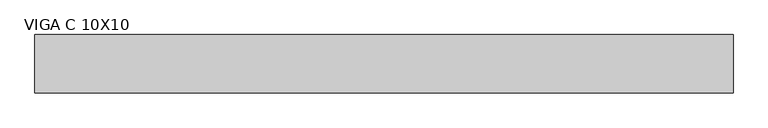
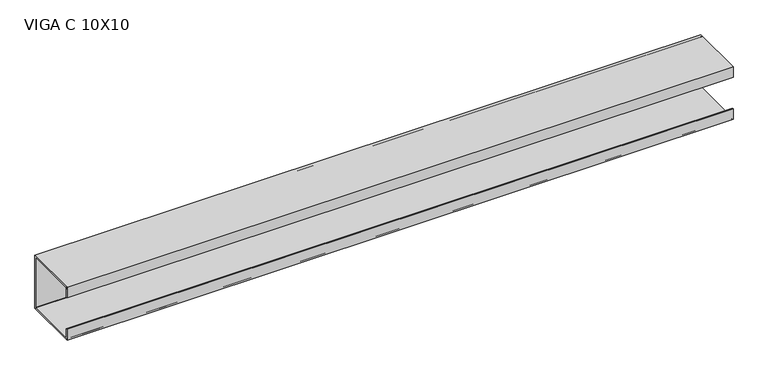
"""IFC4 building model written with IfcOpenShell, lengths in millimetres: beam geometry, VIGA PERFIL C AÇO : VIGA C 10X10."""

import ifcopenshell
import ifcopenshell.guid

model = None  # the IFC model being written
_history = None  # IfcOwnerHistory: only IFC2X3 demands one
_inside = {}  # id of a spatial element -> (the spatial element, [elements in it])
_under = {}  # id of a project, library or spatial element -> (it, [spatial elements below it])
_declared = {}  # id of a project -> (the project, [libraries it declares])
_typed = {}  # id of a type object -> (the type object, [elements of that type])
_made_of = {}  # id of a material, layer set ... -> (it, [elements and type objects made of it])


def new_model(schema):
    """Start an empty IFC model of exactly this schema.

    Asked for "IFC4X3", IfcOpenShell would pick the latest addendum, in which some entities
    have other attributes; the version numbers below select the first issue.
    IFC2X3 requires an IfcOwnerHistory on every rooted entity: one is made here for all.
    """
    global model, _history
    if schema == "IFC4X3":
        model = ifcopenshell.file(schema_version=(4, 3, 0, 0))
    else:
        model = ifcopenshell.file(schema=schema)
    _inside.clear()
    _under.clear()
    _declared.clear()
    _typed.clear()
    _made_of.clear()
    _history = None
    if model.schema == "IFC2X3":
        org = make("IfcOrganization", Name="unknown")
        user = make(
            "IfcPersonAndOrganization",
            ThePerson=make("IfcPerson", FamilyName="unknown"),
            TheOrganization=org,
        )
        app = make(
            "IfcApplication",
            ApplicationDeveloper=org,
            Version="unknown",
            ApplicationFullName="unknown",
            ApplicationIdentifier="unknown",
        )
        _history = make(
            "IfcOwnerHistory",
            OwningUser=user,
            OwningApplication=app,
            ChangeAction="ADDED",
            CreationDate=0,
        )
    return model


def make(cls, **values):
    """One entity of the class cls with the attributes given. An attribute that is None is left unset."""
    return model.create_entity(
        cls, **{name: value for name, value in values.items() if value is not None}
    )


def rooted(cls, **values):
    """An entity with a GlobalId (a new one), such as an element, a storey or a relation."""
    return make(cls, GlobalId=ifcopenshell.guid.new(), OwnerHistory=_history, **values)


def si_unit(unit_type, name, prefix=None):
    """IfcSIUnit, for example si_unit("LENGTHUNIT", "METRE", prefix="MILLI")."""
    return make("IfcSIUnit", UnitType=unit_type, Prefix=prefix, Name=name)


def assignment(units):
    """IfcUnitAssignment: the units of a project."""
    return None if units is None else make("IfcUnitAssignment", Units=units)


def point(xyz):
    """IfcCartesianPoint."""
    return None if xyz is None else make("IfcCartesianPoint", Coordinates=xyz)


def direction(xyz):
    """IfcDirection."""
    return None if xyz is None else make("IfcDirection", DirectionRatios=xyz)


def frame(location, z_axis=None, x_axis=None):
    """IfcAxis2Placement3D, a coordinate frame: its origin and axes. An axis left out is left unset."""
    return make(
        "IfcAxis2Placement3D",
        Location=point(location),
        Axis=direction(z_axis),
        RefDirection=direction(x_axis),
    )


def frame_2d(location, x_axis=None):
    """IfcAxis2Placement2D, a coordinate frame in the plane: its origin and x axis."""
    return make(
        "IfcAxis2Placement2D", Location=point(location), RefDirection=direction(x_axis)
    )


def origin():
    """The frame at (0, 0, 0) with its axes left unset."""
    return frame((0.0, 0.0, 0.0))


def place(relative_to, where):
    """IfcLocalPlacement: puts the frame where relative to a parent placement (None: the world)."""
    return make(
        "IfcLocalPlacement", PlacementRelTo=relative_to, RelativePlacement=where
    )


def context(
    kind, dimensions, precision=None, world=None, true_north=None, identifier=None
):
    """IfcGeometricRepresentationContext, for example the 3D "Model" context."""
    return make(
        "IfcGeometricRepresentationContext",
        ContextIdentifier=identifier,
        ContextType=kind,
        CoordinateSpaceDimension=dimensions,
        Precision=precision,
        WorldCoordinateSystem=world,
        TrueNorth=true_north,
    )


def project(units=None, contexts=None):
    """IfcProject with its units and contexts."""
    return rooted(
        "IfcProject",
        Name="project",
        RepresentationContexts=contexts,
        UnitsInContext=assignment(units),
    )


def spatial(cls, under=None, at=None, **own):
    """A site, building, storey or space (cls), placed at a placement, below another one or the project."""
    s = rooted(cls, ObjectPlacement=at, **own)
    if under is not None:
        _under.setdefault(under.id(), (under, []))[1].append(s)
    return s


def polyline(points):
    """IfcPolyline through the points."""
    return make("IfcPolyline", Points=[point(p) for p in points])


def circle_curve(where, radius):
    """IfcCircle in the frame where."""
    return make("IfcCircle", Position=where, Radius=radius)


def trimmed(basis, trim1, trim2, sense, master):
    """IfcTrimmedCurve: the piece of a basis curve between two trims."""
    return make(
        "IfcTrimmedCurve",
        BasisCurve=basis,
        Trim1=trim1,
        Trim2=trim2,
        SenseAgreement=sense,
        MasterRepresentation=master,
    )


def segment(curve, same_sense, transition):
    """IfcCompositeCurveSegment."""
    return make(
        "IfcCompositeCurveSegment",
        Transition=transition,
        SameSense=same_sense,
        ParentCurve=curve,
    )


def composite_curve(segments, self_intersect=None):
    """IfcCompositeCurve: segments joined end to end."""
    return make("IfcCompositeCurve", Segments=segments, SelfIntersect=self_intersect)


def outline(outer, holes=None, kind="AREA"):
    """IfcArbitraryClosedProfileDef: a profile drawn as a closed curve; with holes, ...WithVoids."""
    if holes is None:
        return make("IfcArbitraryClosedProfileDef", ProfileType=kind, OuterCurve=outer)
    return make(
        "IfcArbitraryProfileDefWithVoids",
        ProfileType=kind,
        OuterCurve=outer,
        InnerCurves=holes,
    )


def extrude(swept, where, along, depth):
    """IfcExtrudedAreaSolid: the profile swept, set in the frame where, extruded along a direction by depth."""
    return make(
        "IfcExtrudedAreaSolid",
        SweptArea=swept,
        Position=where,
        ExtrudedDirection=direction(along),
        Depth=depth,
    )


def shape(context_of_items, identifier, shape_type, items):
    """IfcShapeRepresentation: the items that make up one representation, for example the "Body"."""
    return make(
        "IfcShapeRepresentation",
        ContextOfItems=context_of_items,
        RepresentationIdentifier=identifier,
        RepresentationType=shape_type,
        Items=items,
    )


def source(mapping_origin, context_of_items, identifier, shape_type, items):
    """IfcRepresentationMap: a shape defined once, which mapped items show again and again."""
    return make(
        "IfcRepresentationMap",
        MappingOrigin=mapping_origin,
        MappedRepresentation=shape(context_of_items, identifier, shape_type, items),
    )


def transform(
    local_origin,
    x_axis=None,
    y_axis=None,
    z_axis=None,
    scale=None,
    scale2=None,
    scale3=None,
    uniform=True,
):
    """IfcCartesianTransformationOperator3D, or its non-uniform kind. x_axis, y_axis, z_axis: its Axis1, 2, 3."""
    if uniform:
        return make(
            "IfcCartesianTransformationOperator3D",
            Axis1=direction(x_axis),
            Axis2=direction(y_axis),
            LocalOrigin=point(local_origin),
            Scale=scale,
            Axis3=direction(z_axis),
        )
    return make(
        "IfcCartesianTransformationOperator3DnonUniform",
        Axis1=direction(x_axis),
        Axis2=direction(y_axis),
        LocalOrigin=point(local_origin),
        Scale=scale,
        Axis3=direction(z_axis),
        Scale2=scale2,
        Scale3=scale3,
    )


def mapped(mapping_source, mapping_target):
    """IfcMappedItem: shows the shape of a source again, moved by a transform."""
    return make(
        "IfcMappedItem", MappingSource=mapping_source, MappingTarget=mapping_target
    )


def made_of(thing, what):
    """Note that an element or type object is made of a material, layer set ...; save() writes the relation."""
    if what is not None:
        _made_of.setdefault(what.id(), (what, []))[1].append(thing)
    return thing


def element(
    cls,
    number,
    at=None,
    inside=None,
    cuts=None,
    type_object=None,
    material=None,
    context=None,
    identifier="Body",
    shape_type=None,
    held_by="IfcProductDefinitionShape",
    body=None,
    shapes=None,
    **own,
):
    """One element of the class cls, such as IfcWall. Its Tag is "e" and its number.

    at: its placement. inside: the storey or other place that contains it. cuts: it is an
    opening in that element (IfcRelVoidsElement). A single representation is given by context,
    identifier, shape_type and body (its items); several are given by shapes. held_by: the class
    of the entity that holds the representations. save() writes the other relations.
    """
    e = rooted(cls, Tag="e%d" % number, ObjectPlacement=at, **own)
    if body is not None:
        shapes = [shape(context, identifier, shape_type, body)]
    if shapes is not None:
        e.Representation = make(held_by, Representations=shapes)
    if inside is not None:
        _inside.setdefault(inside.id(), (inside, []))[1].append(e)
    if cuts is not None:
        rooted(
            "IfcRelVoidsElement", RelatingBuildingElement=cuts, RelatedOpeningElement=e
        )
    if type_object is not None:
        _typed.setdefault(type_object.id(), (type_object, []))[1].append(e)
    return made_of(e, material)


def aggregate(whole, parts):
    """IfcRelAggregates: a whole, such as a stair, and the parts it consists of."""
    return rooted("IfcRelAggregates", RelatingObject=whole, RelatedObjects=parts)


def save(model, path):
    """Write the relations noted so far, then the file.

    IfcRelAggregates (storeys below a building ...), IfcRelContainedInSpatialStructure (elements
    in a storey), IfcRelDefinesByType, IfcRelAssociatesMaterial and IfcRelDeclares: one each for
    every whole, place, type object, material and project.
    """
    for whole, parts in _under.values():
        aggregate(whole, parts)
    for where, things in _inside.values():
        rooted(
            "IfcRelContainedInSpatialStructure",
            RelatedElements=things,
            RelatingStructure=where,
        )
    for kind, things in _typed.values():
        rooted("IfcRelDefinesByType", RelatedObjects=things, RelatingType=kind)
    for what, things in _made_of.values():
        rooted("IfcRelAssociatesMaterial", RelatedObjects=things, RelatingMaterial=what)
    for by, libraries in _declared.values():
        rooted("IfcRelDeclares", RelatingContext=by, RelatedDefinitions=libraries)
    model.write(path)


def viga_c_10x10_0e2a75e5(model_context):
    return source(origin(), model_context, "Body", "SweptSolid", [
        extrude(outline(polyline([(9.2, -50.0), (-90.8, -50.0), (-90.8, -30.0), (-88.9, -30.0), (-88.9, -48.1), (7.3, -48.1), (7.3, 48.1), (-88.9, 48.1), (-88.9, 30.0), (-90.8, 30.0), (-90.8, 50.0), (9.2, 50.0), (9.2, -50.0)])), frame((-628.5, 0.0, 0.0), z_axis=(1.0, 0.0, 0.0), x_axis=(0.0, 1.0, 0.0)), (0.0, 0.0, 1.0), 1197.0),
        extrude(outline(composite_curve([segment(trimmed(circle_curve(frame_2d((5.4, -46.2)), 3.8), [point((9.2, -46.2))], [point((5.4, -50.0))], False, "CARTESIAN"), True, "CONTINUOUS"), segment(polyline([(5.4, -50.0), (-87.0, -50.0)]), True, "CONTINUOUS"), segment(trimmed(circle_curve(frame_2d((-87.0, -46.2)), 3.8), [point((-87.0, -50.0))], [point((-90.8, -46.2))], False, "CARTESIAN"), True, "CONTINUOUS"), segment(polyline([(-90.8, -46.2), (-90.8, -30.0), (-88.9, -30.0), (-88.9, -46.2)]), True, "CONTINUOUS"), segment(trimmed(circle_curve(frame_2d((-87.0, -46.2)), 1.9), [point((-88.9, -46.2))], [point((-87.0, -48.1))], True, "CARTESIAN"), True, "CONTINUOUS"), segment(polyline([(-87.0, -48.1), (5.4, -48.1)]), True, "CONTINUOUS"), segment(trimmed(circle_curve(frame_2d((5.4, -46.2)), 1.9), [point((5.4, -48.1))], [point((7.3, -46.2))], True, "CARTESIAN"), True, "CONTINUOUS"), segment(polyline([(7.3, -46.2), (7.3, 46.2)]), True, "CONTINUOUS"), segment(trimmed(circle_curve(frame_2d((5.4, 46.2)), 1.9), [point((7.3, 46.2))], [point((5.4, 48.1))], True, "CARTESIAN"), True, "CONTINUOUS"), segment(polyline([(5.4, 48.1), (-87.0, 48.1)]), True, "CONTINUOUS"), segment(trimmed(circle_curve(frame_2d((-87.0, 46.2)), 1.9), [point((-87.0, 48.1))], [point((-88.9, 46.2))], True, "CARTESIAN"), True, "CONTINUOUS"), segment(polyline([(-88.9, 46.2), (-88.9, 30.0), (-90.8, 30.0), (-90.8, 46.2)]), True, "CONTINUOUS"), segment(trimmed(circle_curve(frame_2d((-87.0, 46.2)), 3.8), [point((-90.8, 46.2))], [point((-87.0, 50.0))], False, "CARTESIAN"), True, "CONTINUOUS"), segment(polyline([(-87.0, 50.0), (5.4, 50.0)]), True, "CONTINUOUS"), segment(trimmed(circle_curve(frame_2d((5.4, 46.2)), 3.8), [point((5.4, 50.0))], [point((9.2, 46.2))], False, "CARTESIAN"), True, "CONTINUOUS"), segment(polyline([(9.2, 46.2), (9.2, -46.2)]), True, "CONTINUOUS")], self_intersect=False)), frame((-628.5, 0.0, 0.0), z_axis=(1.0, 0.0, 0.0), x_axis=(0.0, 1.0, 0.0)), (0.0, 0.0, 1.0), 1197.0),
    ])


if __name__ == "__main__":
    model = new_model("IFC4")
    model_context = context("Model", 3, world=origin())
    ifc_project = project(units=[si_unit("LENGTHUNIT", "METRE", prefix="MILLI")], contexts=[model_context])
    site = spatial("IfcSite", under=ifc_project)
    building = spatial("IfcBuilding", under=site)
    placement = place(None, origin())
    viga_c_10x10_shape = viga_c_10x10_0e2a75e5(model_context)
    element("IfcBeam", 1, ObjectType="VIGA PERFIL C AÇO : VIGA C 10X10", at=placement, inside=building, context=model_context, shape_type="MappedRepresentation", body=[
        mapped(viga_c_10x10_shape, transform((0.0, 0.0, 0.0), x_axis=(1.0, 0.0, 0.0), y_axis=(0.0, 1.0, 0.0), z_axis=(0.0, 0.0, 1.0))),
    ])
    save(model, "model.ifc")
